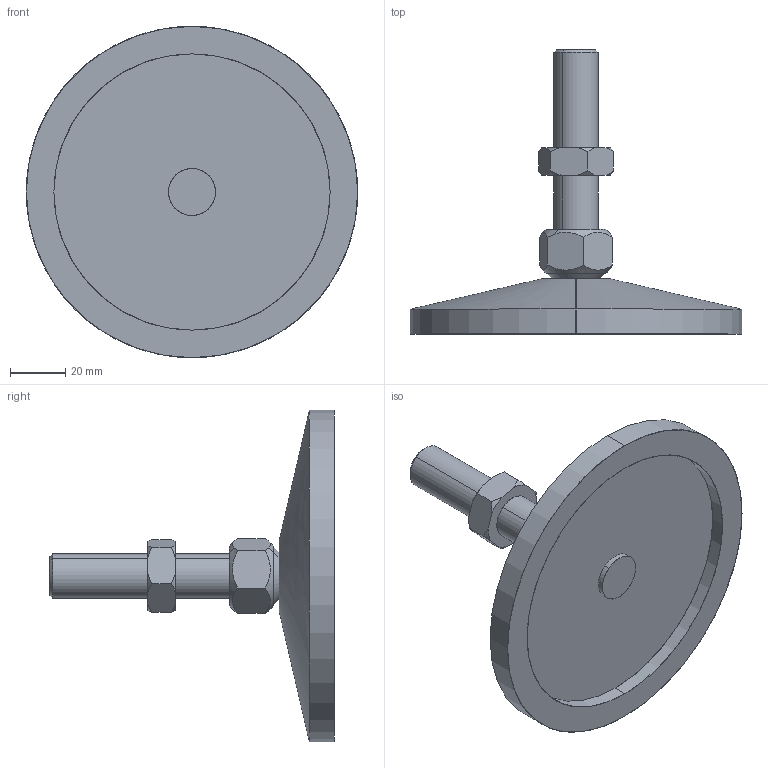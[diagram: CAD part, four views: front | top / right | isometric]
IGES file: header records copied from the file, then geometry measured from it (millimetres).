
Start section: SolidWorks IGES file using analytic representation for surfaces
Global section: file name: C:\Documents and Settings\URETIM3\Desktop\yeni katalog tolgay düzenli\A kataloðu\pabuc,saplama montajlarý\580 metal 590 paslanmaz taban sabit pabuç\PASLANMAZ\590 121 610.IGS; native system: SolidWorks 2006 by SolidWorks Corporation; preprocessor: SolidWorks 2006 by SolidWorks Corporation; author: URETIM3; date: 060911.185905; units: millimetre
Bounding box: 120 x 103 x 120 mm (x, y, z)
Surface area: 34865.2 mm2 (no closed solid volume)
Topology: 0 solids, 0 shells, 52 faces, 952 edges, 952 vertices
Faces by surface type: revolution 32, bspline 20
